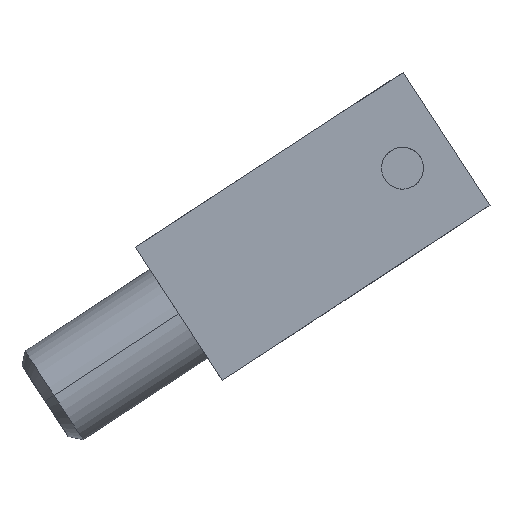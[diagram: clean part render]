
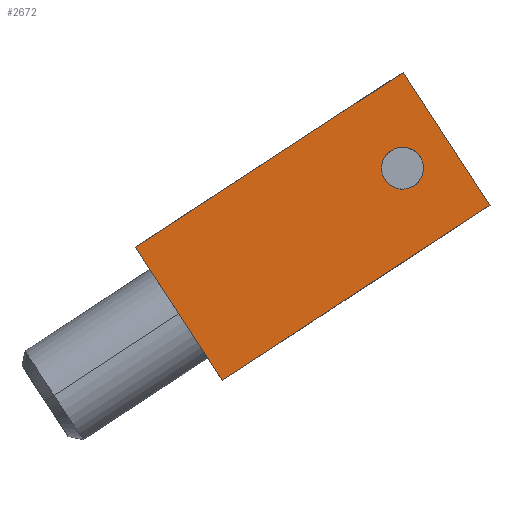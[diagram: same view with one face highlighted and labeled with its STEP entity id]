
A CAD part, front view. The second image highlights one B-rep face of the part: STEP entity #2672.
In plain terms, the highlighted planar face has unit normal (0, -1, 0) as drawn and (0, 0, -1) by its records, which use the part's own axes.
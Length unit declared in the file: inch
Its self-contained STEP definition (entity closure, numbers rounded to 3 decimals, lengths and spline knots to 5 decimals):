
#567 = CIRCLE ( 'NONE', #11904, 0.09843 ) ;
#959 = LINE ( 'NONE', #6783, #961 ) ;
#961 = VECTOR ( 'NONE', #6782, 39.37008 ) ;
#970 = LINE ( 'NONE', #6775, #972 ) ;
#972 = VECTOR ( 'NONE', #6774, 39.37008 ) ;
#987 = LINE ( 'NONE', #6757, #991 ) ;
#989 = CIRCLE ( 'NONE', #11933, 0.09843 ) ;
#991 = VECTOR ( 'NONE', #6756, 39.37008 ) ;
#992 = LINE ( 'NONE', #6754, #994 ) ;
#994 = VECTOR ( 'NONE', #6753, 39.37008 ) ;
#2672 = ADVANCED_FACE ( 'NONE', ( #17402, #17403 ), #8304, .F. ) ;
#6006 = CARTESIAN_POINT ( 'NONE',  ( 1.15357, 0.375, -1. ) ) ;
#6041 = CARTESIAN_POINT ( 'NONE',  ( 1.5, 0., -1. ) ) ;
#6114 = CARTESIAN_POINT ( 'NONE',  ( 0., 0.7455, -1. ) ) ;
#6134 = CARTESIAN_POINT ( 'NONE',  ( 1.5, 0.7455, -1. ) ) ;
#6195 = CARTESIAN_POINT ( 'NONE',  ( 1.35043, 0.375, -1. ) ) ;
#6227 = CARTESIAN_POINT ( 'NONE',  ( 0., 0., -1. ) ) ;
#6753 = DIRECTION ( 'NONE',  ( -1., 0., 0. ) ) ;
#6754 = CARTESIAN_POINT ( 'NONE',  ( 0., 0.7455, -1. ) ) ;
#6756 = DIRECTION ( 'NONE',  ( -1., 0., 0. ) ) ;
#6757 = CARTESIAN_POINT ( 'NONE',  ( 0., 0., -1. ) ) ;
#6759 = DIRECTION ( 'NONE',  ( 1., 0., 0. ) ) ;
#6760 = DIRECTION ( 'NONE',  ( 0., 0., 1. ) ) ;
#6761 = CARTESIAN_POINT ( 'NONE',  ( 1.252, 0.375, -1. ) ) ;
#6774 = DIRECTION ( 'NONE',  ( 0., -1., 0. ) ) ;
#6775 = CARTESIAN_POINT ( 'NONE',  ( 0., 0.7455, -1. ) ) ;
#6782 = DIRECTION ( 'NONE',  ( 0., -1., 0. ) ) ;
#6783 = CARTESIAN_POINT ( 'NONE',  ( 1.5, 0.7455, -1. ) ) ;
#8301 = DIRECTION ( 'NONE',  ( 1., 0., 0. ) ) ;
#8302 = DIRECTION ( 'NONE',  ( 0., 0., 1. ) ) ;
#8303 = CARTESIAN_POINT ( 'NONE',  ( 0., 0.7455, -1. ) ) ;
#8304 = PLANE ( 'NONE',  #13232 ) ;
#9178 = EDGE_CURVE ( 'NONE', #11446, #11270, #567, .T. ) ;
#10152 = EDGE_CURVE ( 'NONE', #11328, #11413, #959, .T. ) ;
#10155 = EDGE_CURVE ( 'NONE', #11344, #11238, #970, .T. ) ;
#10160 = EDGE_CURVE ( 'NONE', #11270, #11446, #989, .T. ) ;
#10161 = EDGE_CURVE ( 'NONE', #11413, #11238, #987, .T. ) ;
#10162 = EDGE_CURVE ( 'NONE', #11328, #11344, #992, .T. ) ;
#11238 = VERTEX_POINT ( 'NONE', #6227 ) ;
#11270 = VERTEX_POINT ( 'NONE', #6195 ) ;
#11328 = VERTEX_POINT ( 'NONE', #6134 ) ;
#11344 = VERTEX_POINT ( 'NONE', #6114 ) ;
#11413 = VERTEX_POINT ( 'NONE', #6041 ) ;
#11446 = VERTEX_POINT ( 'NONE', #6006 ) ;
#11904 = AXIS2_PLACEMENT_3D ( 'NONE', #19358, #19357, #19356 ) ;
#11933 = AXIS2_PLACEMENT_3D ( 'NONE', #6761, #6760, #6759 ) ;
#13232 = AXIS2_PLACEMENT_3D ( 'NONE', #8303, #8302, #8301 ) ;
#14784 = EDGE_LOOP ( 'NONE', ( #15881, #15882 ) ) ;
#14785 = EDGE_LOOP ( 'NONE', ( #15885, #15887, #15889, #15890 ) ) ;
#15881 = ORIENTED_EDGE ( 'NONE', *, *, #10160, .T. ) ;
#15882 = ORIENTED_EDGE ( 'NONE', *, *, #9178, .T. ) ;
#15885 = ORIENTED_EDGE ( 'NONE', *, *, #10161, .T. ) ;
#15887 = ORIENTED_EDGE ( 'NONE', *, *, #10155, .F. ) ;
#15889 = ORIENTED_EDGE ( 'NONE', *, *, #10162, .F. ) ;
#15890 = ORIENTED_EDGE ( 'NONE', *, *, #10152, .T. ) ;
#17402 = FACE_BOUND ( 'NONE', #14784, .T. ) ;
#17403 = FACE_OUTER_BOUND ( 'NONE', #14785, .T. ) ;
#19356 = DIRECTION ( 'NONE',  ( 1., 0., 0. ) ) ;
#19357 = DIRECTION ( 'NONE',  ( 0., 0., 1. ) ) ;
#19358 = CARTESIAN_POINT ( 'NONE',  ( 1.252, 0.375, -1. ) ) ;
